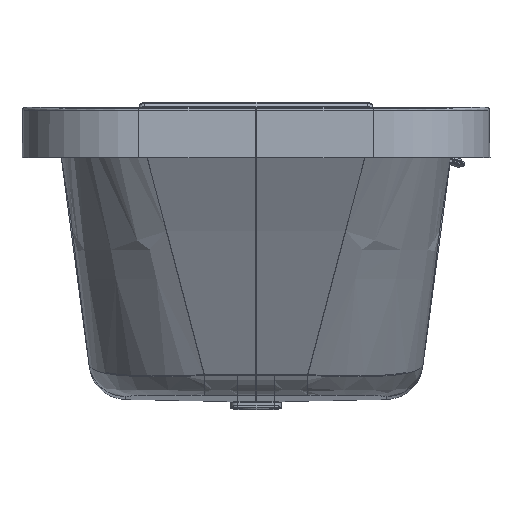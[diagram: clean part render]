
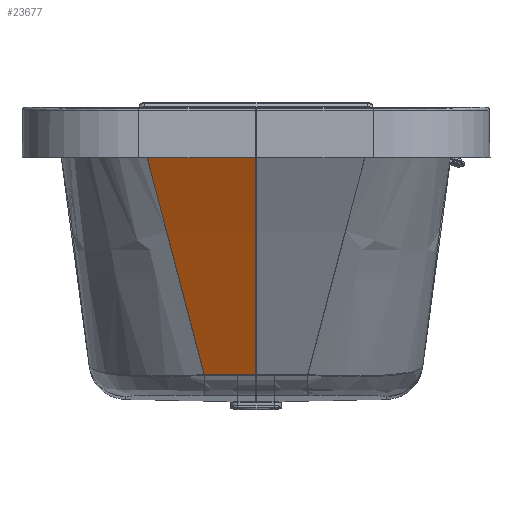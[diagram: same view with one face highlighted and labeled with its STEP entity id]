
A CAD part, left-side view. The second image highlights one B-rep face of the part: STEP entity #23677.
In plain terms, the highlighted free-form (B-spline) face has degree [2, 1] with [5, 2] control points.
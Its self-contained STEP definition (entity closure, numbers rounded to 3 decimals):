
#20436=CARTESIAN_POINT('',(-616.805,0.734,-458.835));
#20437=VERTEX_POINT('',#20436);
#20519=CARTESIAN_POINT('',(-839.7,0.734,-33.56));
#20520=VERTEX_POINT('',#20519);
#23220=CARTESIAN_POINT('',(-616.839,88.33,-458.768));
#23221=VERTEX_POINT('',#23220);
#23314=CARTESIAN_POINT('',(-616.805,31.58,-458.835));
#23315=VERTEX_POINT('',#23314);
#23323=CARTESIAN_POINT('',(-616.805,31.58,-458.835));
#23324=CARTESIAN_POINT('',(-616.805,40.278,-458.835));
#23325=CARTESIAN_POINT('',(-616.81,59.194,-458.824));
#23326=CARTESIAN_POINT('',(-616.827,78.111,-458.792));
#23327=CARTESIAN_POINT('',(-616.839,88.33,-458.768));
#23328=B_SPLINE_CURVE_WITH_KNOTS('',3,(#23323,#23324,#23325,#23326,#23327),.UNSPECIFIED.,.F.,.U.,(4,1,4),(0.0,26.223,57.033),.UNSPECIFIED.);
#23329=EDGE_CURVE('',#23315,#23221,#23328,.T.);
#23347=CARTESIAN_POINT('',(-616.805,0.734,-458.835));
#23348=DIRECTION('',(0.0,1.0,0.0));
#23349=VECTOR('',#23348,30.846);
#23350=LINE('',#23347,#23349);
#23351=EDGE_CURVE('',#20437,#23315,#23350,.T.);
#23524=CARTESIAN_POINT('',(-742.87,153.104,-211.955));
#23525=VERTEX_POINT('',#23524);
#23526=CARTESIAN_POINT('',(-616.839,88.33,-458.768));
#23527=CARTESIAN_POINT('',(-628.863,94.521,-435.169));
#23528=CARTESIAN_POINT('',(-640.887,100.713,-411.57));
#23529=CARTESIAN_POINT('',(-652.912,106.903,-387.971));
#23530=CARTESIAN_POINT('',(-664.936,113.093,-364.371));
#23531=CARTESIAN_POINT('',(-676.96,119.289,-340.773));
#23532=CARTESIAN_POINT('',(-692.626,127.353,-310.026));
#23533=CARTESIAN_POINT('',(-708.292,135.419,-279.28));
#23534=CARTESIAN_POINT('',(-711.936,137.294,-272.134));
#23535=CARTESIAN_POINT('',(-715.576,139.17,-264.986));
#23536=CARTESIAN_POINT('',(-719.21,141.045,-257.835));
#23537=CARTESIAN_POINT('',(-725.177,144.106,-246.168));
#23538=CARTESIAN_POINT('',(-731.174,147.167,-234.516));
#23539=CARTESIAN_POINT('',(-733.504,148.355,-229.999));
#23540=CARTESIAN_POINT('',(-735.839,149.542,-225.485));
#23541=CARTESIAN_POINT('',(-738.178,150.729,-220.972));
#23542=CARTESIAN_POINT('',(-740.522,151.917,-216.463));
#23543=CARTESIAN_POINT('',(-742.87,153.104,-211.955));
#23544=B_SPLINE_CURVE_WITH_KNOTS('',7,(#23526,#23527,#23528,#23529,#23530,#23531,#23532,#23533,#23534,#23535,#23536,#23537,#23538,#23539,#23540,#23541,#23542,#23543),.UNSPECIFIED.,.F.,.U.,(8,5,5,8),(0.072,0.43,0.538,0.607),.UNSPECIFIED.);
#23545=EDGE_CURVE('',#23221,#23525,#23544,.T.);
#23547=CARTESIAN_POINT('',(-839.7,200.544,-33.56));
#23548=VERTEX_POINT('',#23547);
#23549=CARTESIAN_POINT('',(-742.87,153.104,-211.955));
#23550=CARTESIAN_POINT('',(-756.269,159.879,-186.237));
#23551=CARTESIAN_POINT('',(-769.813,166.655,-160.595));
#23552=CARTESIAN_POINT('',(-783.502,173.432,-135.03));
#23553=CARTESIAN_POINT('',(-797.337,180.203,-109.542));
#23554=CARTESIAN_POINT('',(-811.314,186.983,-84.134));
#23555=CARTESIAN_POINT('',(-825.436,193.762,-58.807));
#23556=CARTESIAN_POINT('',(-839.7,200.544,-33.56));
#23557=B_SPLINE_CURVE_WITH_KNOTS('',7,(#23549,#23550,#23551,#23552,#23553,#23554,#23555,#23556),.UNSPECIFIED.,.F.,.U.,(8,8),(0.607,0.998),.UNSPECIFIED.);
#23558=EDGE_CURVE('',#23525,#23548,#23557,.T.);
#23617=CARTESIAN_POINT('',(-839.705,0.734,-33.552));
#23618=CARTESIAN_POINT('',(-776.483,0.734,-145.449));
#23619=CARTESIAN_POINT('',(-718.135,0.734,-259.964));
#23620=CARTESIAN_POINT('',(-667.468,0.734,-359.404));
#23621=CARTESIAN_POINT('',(-616.8,0.734,-458.843));
#23622=CARTESIAN_POINT('',(-839.705,200.554,-33.552));
#23623=CARTESIAN_POINT('',(-776.483,200.554,-145.449));
#23624=CARTESIAN_POINT('',(-718.135,200.554,-259.964));
#23625=CARTESIAN_POINT('',(-667.468,200.554,-359.404));
#23626=CARTESIAN_POINT('',(-616.8,200.554,-458.843));
#23634=(BOUNDED_SURFACE()B_SPLINE_SURFACE(2,1,((#23617,#23622),(#23618,#23623),(#23619,#23624),(#23620,#23625),(#23621,#23626)),.UNSPECIFIED.,.F.,.F.,.U.)B_SPLINE_SURFACE_WITH_KNOTS((3,2,3),(2,2),(0.809,259.1,483.424),(0.0,1.0),.UNSPECIFIED.)GEOMETRIC_REPRESENTATION_ITEM()RATIONAL_B_SPLINE_SURFACE(((1.,1.),(1.,1.),(1.0,1.0),(1.0,1.0),(1.0,1.0)))REPRESENTATION_ITEM('')SURFACE());
#23635=CARTESIAN_POINT('',(-742.87,0.734,-211.955));
#23636=VERTEX_POINT('',#23635);
#23637=CARTESIAN_POINT('',(-839.7,0.734,-33.56));
#23638=CARTESIAN_POINT('',(-789.769,0.734,-121.935));
#23639=CARTESIAN_POINT('',(-742.87,0.734,-211.955));
#23647=(BOUNDED_CURVE()B_SPLINE_CURVE(2,(#23637,#23638,#23639),.UNSPECIFIED.,.F.,.U.)B_SPLINE_CURVE_WITH_KNOTS((3,3),(0.819,204.822),.UNSPECIFIED.)CURVE()GEOMETRIC_REPRESENTATION_ITEM()RATIONAL_B_SPLINE_CURVE((1.,1.,1.))REPRESENTATION_ITEM(''));
#23648=EDGE_CURVE('',#20520,#23636,#23647,.T.);
#23649=ORIENTED_EDGE('',*,*,#23648,.F.);
#23650=CARTESIAN_POINT('',(-839.7,200.544,-33.56));
#23651=DIRECTION('',(0.0,-1.0,0.0));
#23652=VECTOR('',#23651,199.809);
#23653=LINE('',#23650,#23652);
#23654=EDGE_CURVE('',#23548,#20520,#23653,.T.);
#23655=ORIENTED_EDGE('',*,*,#23654,.F.);
#23656=ORIENTED_EDGE('',*,*,#23558,.F.);
#23657=ORIENTED_EDGE('',*,*,#23545,.F.);
#23658=ORIENTED_EDGE('',*,*,#23329,.F.);
#23659=ORIENTED_EDGE('',*,*,#23351,.F.);
#23660=CARTESIAN_POINT('',(-742.87,0.734,-211.955));
#23661=CARTESIAN_POINT('',(-730.394,0.734,-235.904));
#23662=CARTESIAN_POINT('',(-718.135,0.734,-259.964));
#23663=CARTESIAN_POINT('',(-667.47,0.734,-359.399));
#23664=CARTESIAN_POINT('',(-616.805,0.734,-458.835));
#23672=(BOUNDED_CURVE()B_SPLINE_CURVE(2,(#23660,#23661,#23662,#23663,#23664),.UNSPECIFIED.,.F.,.U.)B_SPLINE_CURVE_WITH_KNOTS((3,2,3),(204.822,259.1,483.414),.UNSPECIFIED.)CURVE()GEOMETRIC_REPRESENTATION_ITEM()RATIONAL_B_SPLINE_CURVE((1.,1.,1.0,1.0,1.0))REPRESENTATION_ITEM(''));
#23673=EDGE_CURVE('',#23636,#20437,#23672,.T.);
#23674=ORIENTED_EDGE('',*,*,#23673,.F.);
#23675=EDGE_LOOP('',(#23649,#23655,#23656,#23657,#23658,#23659,#23674));
#23676=FACE_OUTER_BOUND('',#23675,.T.);
#23677=ADVANCED_FACE('',(#23676),#23634,.F.);
